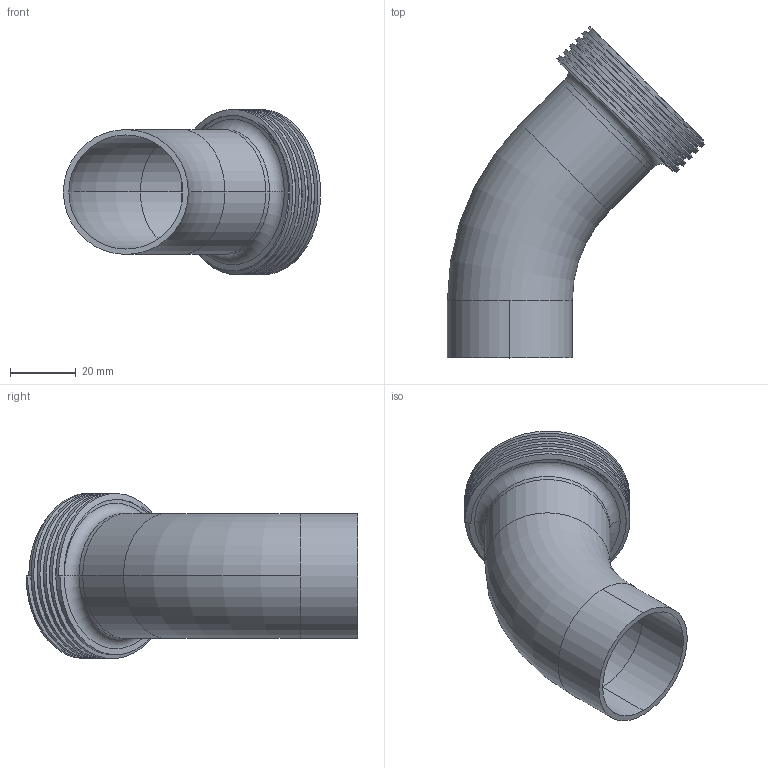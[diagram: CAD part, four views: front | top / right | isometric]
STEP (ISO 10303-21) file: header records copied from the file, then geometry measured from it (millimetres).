
FILE_DESCRIPTION (( 'STEP AP203' ), '1' );
FILE_NAME ('E2KT1.5.STEP', '2018-05-02T15:53:21', ( 'vneprd' ), ( 'Microsoft' ), 'SwSTEP 2.0', 'SolidWorks 2014', '' );
FILE_SCHEMA (( 'CONFIG_CONTROL_DESIGN' ));
Length unit declared in the file: inch
Products named in the file (3): 15TR1.5; E2KT1.5; E2KS1.5
Assembly tree (2 placements, depth 2):
  E2KT1.5
    E2KS1.5
    15TR1.5
Bounding box: 78.42 x 101.21 x 50.39 mm (x, y, z)
Volume: 28147.5 mm3; surface area: 26139.9 mm2
Topology: 2 solids, 2 shells, 43 faces, 105 edges, 67 vertices
Faces by surface type: cylinder 24, plane 7, torus 6, bspline 4, cone 2
Entity records: 2818 total; most frequent: CARTESIAN_POINT 1546, ORIENTED_EDGE 210, DIRECTION 207, EDGE_CURVE 105, AXIS2_PLACEMENT_3D 86, VERTEX_POINT 67, EDGE_LOOP 48, FACE_OUTER_BOUND 43
